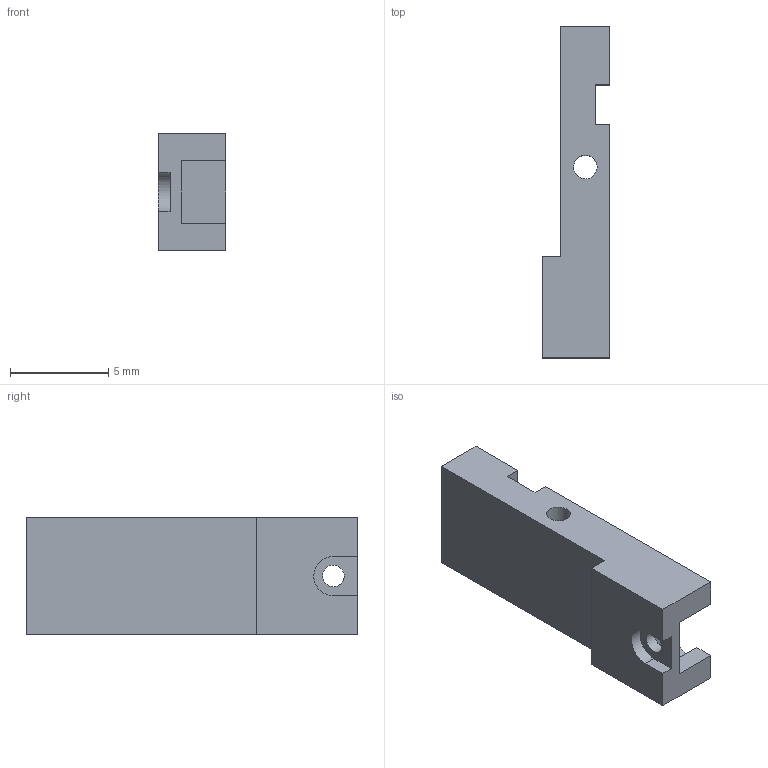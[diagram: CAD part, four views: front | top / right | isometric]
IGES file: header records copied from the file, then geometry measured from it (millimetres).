
Global section: file name: triad-v2b-middle-arm-W VER3; native system: unknown; preprocessor: unknown; author: unknown; organization: unknown; date: 20210615.152712; units: millimetre
Bounding box: 3.45 x 16.91 x 6 mm (x, y, z)
Volume: 242 mm3; surface area: 382.6 mm2
Topology: 1 solids, 1 shells, 24 faces, 67 edges, 45 vertices
Faces by surface type: bspline 24
